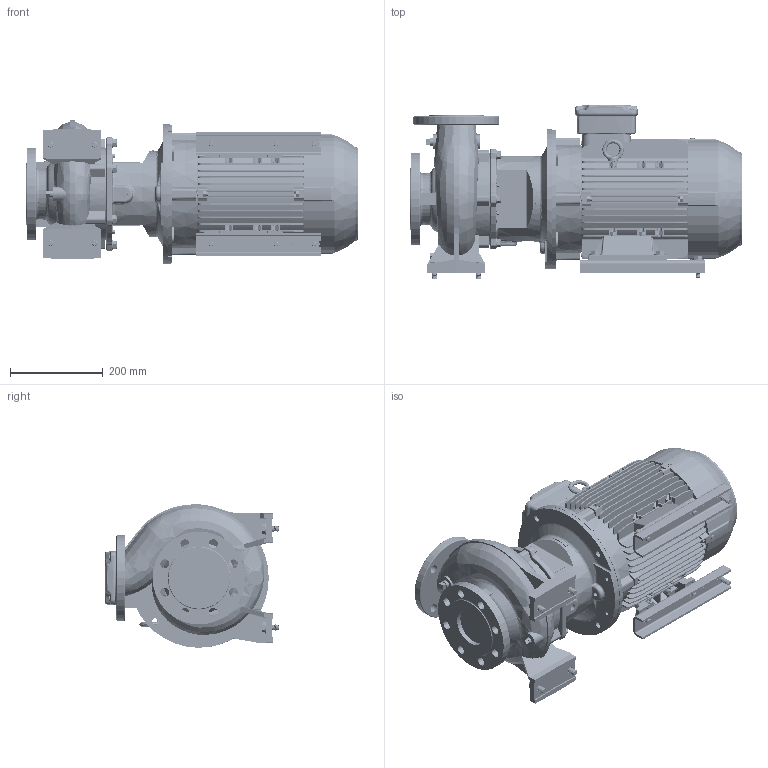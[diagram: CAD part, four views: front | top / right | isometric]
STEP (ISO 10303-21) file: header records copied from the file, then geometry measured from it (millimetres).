
FILE_DESCRIPTION (( 'STEP AP214' ), '1' );
FILE_NAME ('GSD2 65-125_5.5 & 7.5_(132S)_W21.STEP', '2026-07-09T05:44:31', ( '' ), ( '' ), 'SwSTEP 2.0', 'SolidWorks 2024', '' );
FILE_SCHEMA (( 'AUTOMOTIVE_DESIGN' ));
Length unit declared in the file: millimetre
Products named in the file (12): 132S ALIE3_W21T_B35; Parametric bolt and washer_SFT-A275B; Parametric bolt and washer_SFT-A253B; 140_178 x 28 - 271472025; Parametric bolt and washer_SFT-A299B; Parametric bolt_SFT-A257B; 65-125-132S_ﾃﾞﾌｫﾙﾄ; Parametric bolt_SFT-A253B; Parametric bolt_SFT-A299B; Parametric Flat Washer_M12; Parametric Flat Washer_M10; GSD2  65-125_5.5 & 7.5_(132S)_W21
Assembly tree (20 placements, depth 3):
  GSD2  65-125_5.5 & 7.5_(132S)_W21
    65-125-132S_ﾃﾞﾌｫﾙﾄ
    140_178 x 28 - 271472025  x2
    Parametric bolt and washer_SFT-A299B  x4
      Parametric bolt_SFT-A299B
      Parametric Flat Washer_M12
    Parametric bolt and washer_SFT-A275B  x2
      Parametric bolt_SFT-A257B
      Parametric Flat Washer_M10
    Parametric bolt and washer_SFT-A253B  x4
      Parametric bolt_SFT-A253B
      Parametric Flat Washer_M10
    132S ALIE3_W21T_B35
Bounding box: 714.8 x 375.5 x 308.73 mm (x, y, z)
Volume: 28785769.3 mm3; surface area: 1951392 mm2
Topology: 34 solids, 34 shells, 4719 faces, 12229 edges, 7898 vertices
Faces by surface type: plane 2851, cylinder 1092, torus 281, bspline 257, cone 206, sphere 32
Entity records: 173519 total; most frequent: CARTESIAN_POINT 70573, ORIENTED_EDGE 22126, DIRECTION 19971, EDGE_CURVE 11063, LINE 7495, VECTOR 7495, VERTEX_POINT 7150, AXIS2_PLACEMENT_3D 6238
